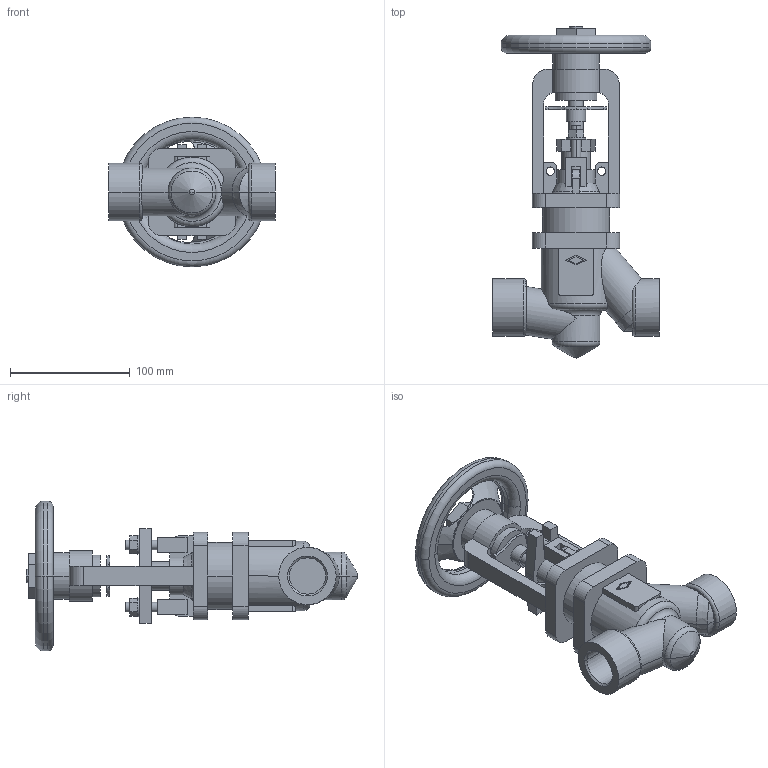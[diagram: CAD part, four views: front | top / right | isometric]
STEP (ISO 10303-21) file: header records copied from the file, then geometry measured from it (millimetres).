
FILE_DESCRIPTION(('OneSpaceDesigner STEP Export'),'2;1');
FILE_NAME('c000004255.stp','2010-05-04T 9:26:26',(''),(''),'OneSpace Designer STEP processor for AP214 (Solid Model)','OneSpace Modeling 15.50B 03-Nov-2007 (C) CoCreate Software GmbH','');
FILE_SCHEMA(('AUTOMOTIVE_DESIGN { 1 0 10303 214 1 1 1 1 }'));
Length unit declared in the file: millimetre
Products named in the file (1): 1
Bounding box: 139 x 277.23 x 125 mm (x, y, z)
Volume: 749765.6 mm3; surface area: 126535.1 mm2
Topology: 1 solids, 1 shells, 288 faces, 765 edges, 498 vertices
Faces by surface type: plane 143, cylinder 99, torus 24, cone 20, sphere 2
Entity records: 11589 total; most frequent: CARTESIAN_POINT 2372, ORIENTED_EDGE 1530, DIRECTION 1317, EDGE_CURVE 765, VERTEX_POINT 498, AXIS2_PLACEMENT_3D 449, VECTOR 419, LINE 419
